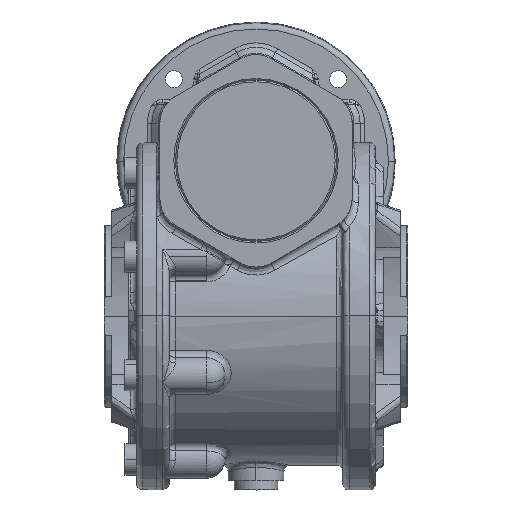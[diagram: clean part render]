
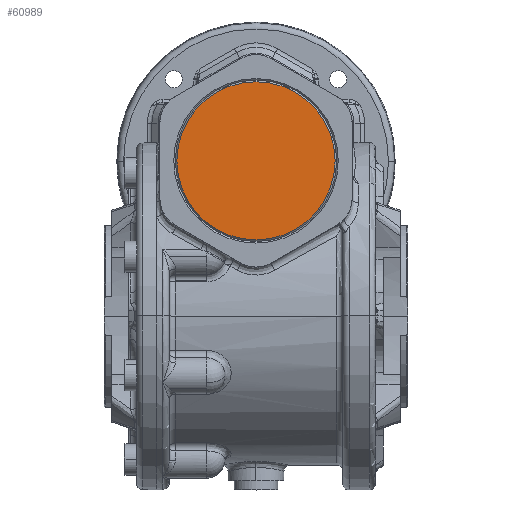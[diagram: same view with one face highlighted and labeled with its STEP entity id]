
A CAD part, top view. The second image highlights one B-rep face of the part: STEP entity #60989.
In plain terms, the highlighted planar face has unit normal (0, 0, 1).
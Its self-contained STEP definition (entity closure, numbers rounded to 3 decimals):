
#56919 = CARTESIAN_POINT ( 'NONE',  ( 3.467, 54.804, 65. ) ) ;
#56944 = DIRECTION ( 'NONE',  ( 0., 1., 0. ) ) ;
#56947 = DIRECTION ( 'NONE',  ( 0., 0., -1. ) ) ;
#56949 = CARTESIAN_POINT ( 'NONE',  ( 3.467, 29.304, 65. ) ) ;
#56952 = AXIS2_PLACEMENT_3D ( 'NONE', #56949, #56947, #56944 ) ;
#56984 = CIRCLE ( 'NONE', #56952, 25.5 ) ;
#57107 = CARTESIAN_POINT ( 'NONE',  ( 3.467, 3.804, 65. ) ) ;
#60256 = EDGE_CURVE ( 'NONE', #60259, #60266, #56984, .T. ) ;
#60259 = VERTEX_POINT ( 'NONE', #56919 ) ;
#60266 = VERTEX_POINT ( 'NONE', #57107 ) ;
#60947 = DIRECTION ( 'NONE',  ( 0., 1., 0. ) ) ;
#60950 = DIRECTION ( 'NONE',  ( 0., 0., -1. ) ) ;
#60953 = CARTESIAN_POINT ( 'NONE',  ( 3.467, 29.304, 65. ) ) ;
#60955 = AXIS2_PLACEMENT_3D ( 'NONE', #60953, #60950, #60947 ) ;
#60957 = CIRCLE ( 'NONE', #60955, 25.5 ) ;
#60964 = EDGE_CURVE ( 'NONE', #60266, #60259, #60957, .T. ) ;
#60989 = ADVANCED_FACE ( 'NONE', ( #61066 ), #61057, .T. ) ;
#60998 = EDGE_LOOP ( 'NONE', ( #61067, #61071 ) ) ;
#61057 = PLANE ( 'NONE',  #61232 ) ;
#61066 = FACE_OUTER_BOUND ( 'NONE', #60998, .T. ) ;
#61067 = ORIENTED_EDGE ( 'NONE', *, *, #60256, .F. ) ;
#61071 = ORIENTED_EDGE ( 'NONE', *, *, #60964, .F. ) ;
#61224 = DIRECTION ( 'NONE',  ( 0., -1., 0. ) ) ;
#61227 = DIRECTION ( 'NONE',  ( 0., 0., 1. ) ) ;
#61230 = CARTESIAN_POINT ( 'NONE',  ( 3.467, 29.304, 65. ) ) ;
#61232 = AXIS2_PLACEMENT_3D ( 'NONE', #61230, #61227, #61224 ) ;
